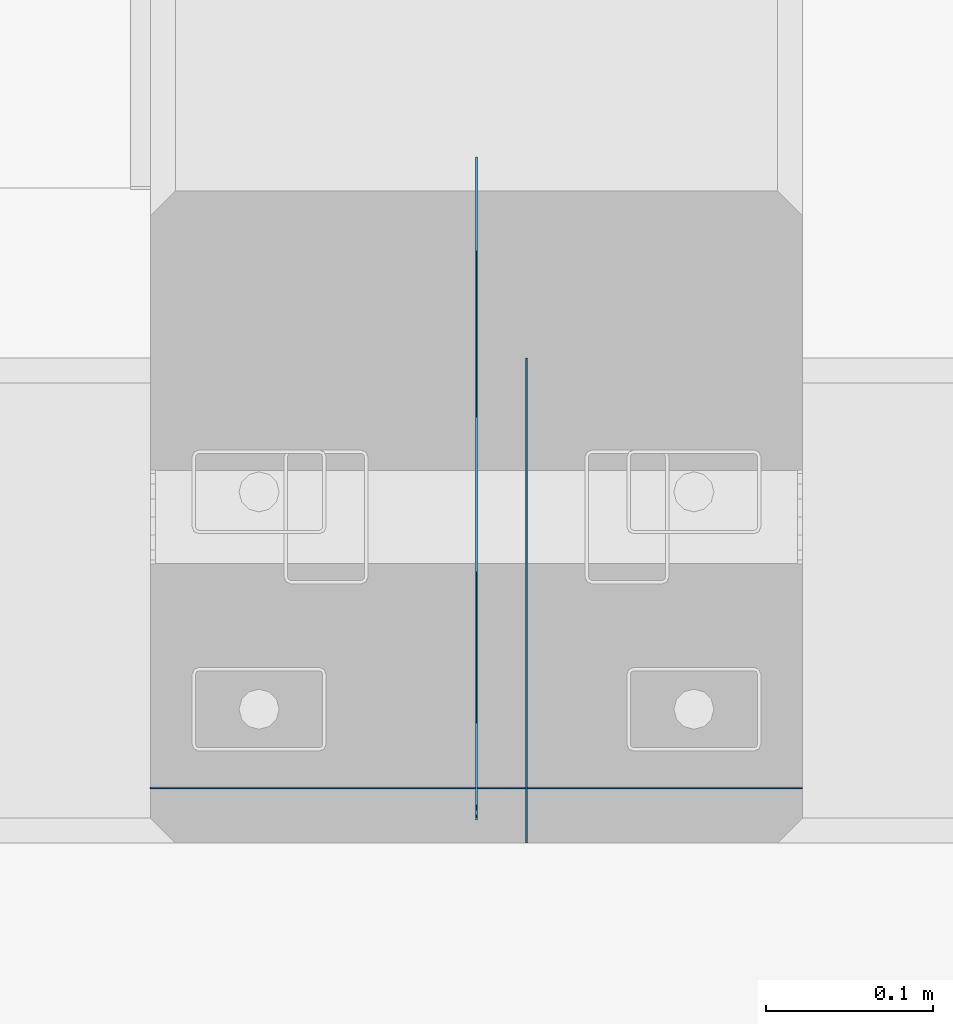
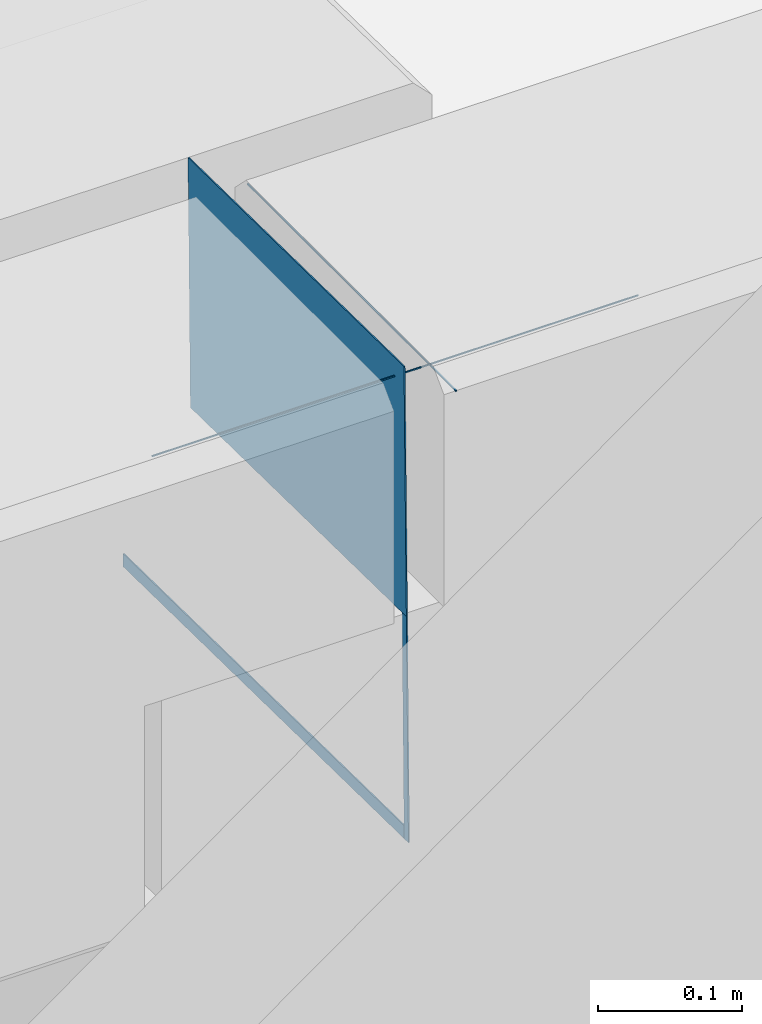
# One storey, part 21 of 186: 5 beams.
"""IFC4X3_ADD2 building model written with IfcOpenShell, lengths in millimetres."""

from ifc_helpers import new_model, si_unit, direction, frame, frame_2d, origin_with_axes, place, context, subcontext, project, spatial, polyline, rectangle, outline, extrude, boolean, material, element, save


model = new_model("IFC4X3_ADD2")

# Units and contexts
model_context = context("Model", 3, precision=1e-05, world=origin_with_axes(), true_north=direction((0.0, 1.0)))
body_context = subcontext(model_context, "Body", "Model", "MODEL_VIEW")
ifc_project = project(units=[si_unit("LENGTHUNIT", "METRE", prefix="MILLI"), si_unit("AREAUNIT", "SQUARE_METRE"), si_unit("VOLUMEUNIT", "CUBIC_METRE"), si_unit("PLANEANGLEUNIT", "RADIAN"), si_unit("TIMEUNIT", "SECOND"), si_unit("MASSUNIT", "GRAM")], contexts=[model_context])

# Site, building, storey
site_placement = place(None, origin_with_axes())
site = spatial("IfcSite", under=ifc_project, at=site_placement, Name="Site", CompositionType="ELEMENT")
building_placement = place(site_placement, origin_with_axes())
building = spatial("IfcBuilding", under=site, at=building_placement, Name="IFC Building Story")
storey_placement = place(building_placement, frame((0.0, 0.0, 4370.0), z_axis=(0.0, 0.0, 1.0), x_axis=(1.0, 0.0, 0.0)))
storey = spatial("IfcBuildingStorey", under=building, at=storey_placement, Name="ETAGE 10 (1)", Elevation=4370.0)

# Beams
ifc_material_1 = material(Name="STEEL/Accessory_invisible")
beam_1_placement = place(storey_placement, frame((39995.689, -14314.9500000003, 3354.0989815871), z_axis=(1.0, 0.0, 0.0), x_axis=(0.0, 0.0, 1.0)))
element("IfcBeam", 1, at=beam_1_placement, inside=storey, material=ifc_material_1, Name="ZW3", ObjectType="1*1 11", context=body_context, shape_type="SweptSolid", body=[
    extrude(rectangle(XDim=0.9999999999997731, YDim=289.900000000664, at=frame_2d((0.0, 5.95523630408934e-12), x_axis=(1.0, 0.0))), origin_with_axes(), (0.0, 0.0, 1.0), 1.0),
])
ifc_material_2 = material(Name="STEEL/Accessory_invisible 261")
beam_2_placement = place(storey_placement, frame((39965.6890204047, -14291.645451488, 3266.14873216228), z_axis=(1.0, 0.0, 0.0), x_axis=(0.0, -0.0154886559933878, -0.9998800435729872)))
element("IfcBeam", 2, at=beam_2_placement, inside=storey, material=ifc_material_2, Name="BEK4", ObjectType="210*1", context=body_context, shape_type="CSG", body=[
    boolean("DIFFERENCE", boolean("DIFFERENCE", extrude(rectangle(XDim=210.000000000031, YDim=300.036162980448, at=frame_2d((0.0, 5.95523630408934e-12), x_axis=(1.0, 0.0))), origin_with_axes(), (0.0, 0.0, 1.0), 1.0), extrude(outline(polyline([(105.0, -4.293374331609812e-05), (-105.0000000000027, -4.293374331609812e-05), (-105.0000000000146, 4.293374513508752e-05), (105.0000000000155, 4.293374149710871e-05), (105.0, -4.293374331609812e-05)])), frame((0.0, 150.0180385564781, -7.275957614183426e-12), z_axis=(0.0, 0.0, 1.0), x_axis=(1.0, 0.0, 0.0)), (0.0, 0.0, 1.0), 1.0)), extrude(outline(polyline([(-105.0000000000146, 4.293374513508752e-05), (105.0000000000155, 4.293374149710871e-05), (105.0, -4.293374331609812e-05), (-105.0000000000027, -4.293374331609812e-05), (-105.0000000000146, 4.293374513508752e-05)])), frame((0.0, -150.01803855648, -7.275957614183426e-12), z_axis=(0.0, 0.0, 1.0), x_axis=(1.0, 0.0, 0.0)), (0.0, 0.0, 1.0), 1.0)),
])
beam_3_placement = place(storey_placement, frame((39965.6890204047, -14245.0304052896, 2975.81294500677), z_axis=(1.0, 0.0, 0.0), x_axis=(0.0, -0.0154886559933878, -0.9998800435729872)))
element("IfcBeam", 3, at=beam_3_placement, inside=storey, material=ifc_material_2, Name="BEK4", ObjectType="11*1 4", context=body_context, shape_type="SweptSolid", body=[
    extrude(rectangle(XDim=10.9999999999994, YDim=390.239712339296, at=frame_2d((0.0, 5.95523630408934e-12), x_axis=(1.0, 0.0))), origin_with_axes(), (0.0, 0.0, 1.0), 1.0),
])
beam_4_placement = place(storey_placement, frame((39966.6890204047, -14441.7400003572, 3068.410263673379), z_axis=(-1.0, 0.0, 0.0), x_axis=(0.0, 0.01547739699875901, 0.9998802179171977)))
element("IfcBeam", 4, at=beam_4_placement, inside=storey, material=ifc_material_2, Name="BEK4", ObjectType="6*1 8", context=body_context, shape_type="SweptSolid", body=[
    extrude(rectangle(XDim=190.078955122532, YDim=5.999999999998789, at=frame_2d((0.0, 5.95523630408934e-12), x_axis=(1.0, 0.0))), origin_with_axes(), (0.0, 0.0, 1.0), 1.0),
])
beam_5_placement = place(storey_placement, frame((40161.0890204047, -14427.0136865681, 3357.756393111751), z_axis=(-1.0, 0.0, 0.0), x_axis=(0.0, 1.0, 0.0)))
element("IfcBeam", 5, at=beam_5_placement, inside=storey, material=ifc_material_1, Name="ZW3", ObjectType="1*1 3", context=body_context, shape_type="SweptSolid", body=[
    extrude(rectangle(XDim=0.9999999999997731, YDim=0.9999999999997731, at=frame_2d((0.0, 5.95523630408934e-12), x_axis=(1.0, 0.0))), origin_with_axes(), (0.0, 0.0, 1.0), 389.8999999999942),
])

save(model, "model.ifc")
